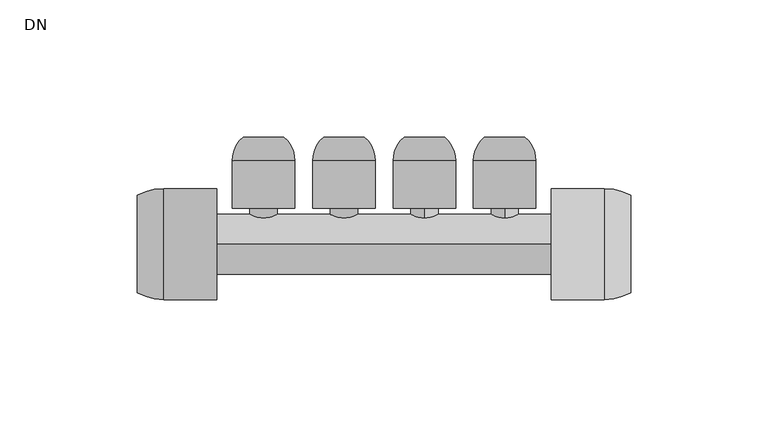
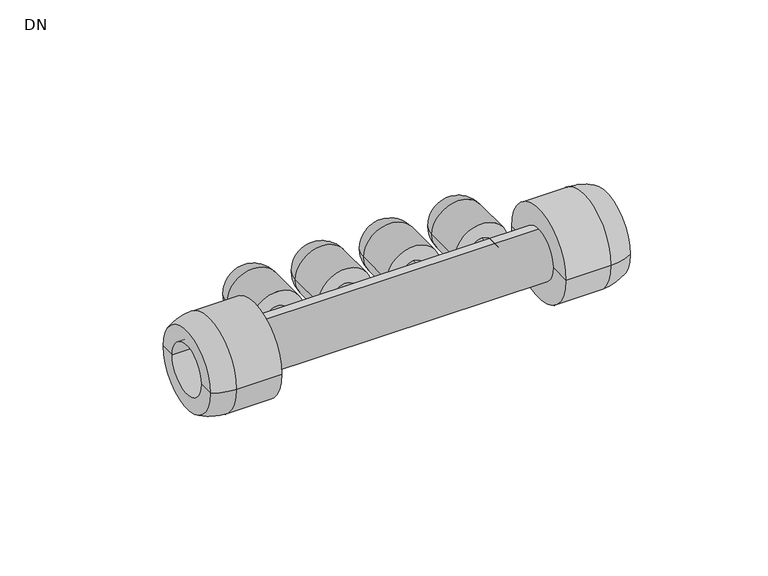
"""IFC4 building model written with IfcOpenShell, lengths in millimetres: pipe fitting geometry, Wavin_PipeFitting_Hep2oManifold : DN."""

import ifcopenshell
import ifcopenshell.guid

model = None  # the IFC model being written
_history = None  # IfcOwnerHistory: only IFC2X3 demands one
_inside = {}  # id of a spatial element -> (the spatial element, [elements in it])
_under = {}  # id of a project, library or spatial element -> (it, [spatial elements below it])
_declared = {}  # id of a project -> (the project, [libraries it declares])
_typed = {}  # id of a type object -> (the type object, [elements of that type])
_made_of = {}  # id of a material, layer set ... -> (it, [elements and type objects made of it])


def new_model(schema):
    """Start an empty IFC model of exactly this schema.

    Asked for "IFC4X3", IfcOpenShell would pick the latest addendum, in which some entities
    have other attributes; the version numbers below select the first issue.
    IFC2X3 requires an IfcOwnerHistory on every rooted entity: one is made here for all.
    """
    global model, _history
    if schema == "IFC4X3":
        model = ifcopenshell.file(schema_version=(4, 3, 0, 0))
    else:
        model = ifcopenshell.file(schema=schema)
    _inside.clear()
    _under.clear()
    _declared.clear()
    _typed.clear()
    _made_of.clear()
    _history = None
    if model.schema == "IFC2X3":
        org = make("IfcOrganization", Name="unknown")
        user = make(
            "IfcPersonAndOrganization",
            ThePerson=make("IfcPerson", FamilyName="unknown"),
            TheOrganization=org,
        )
        app = make(
            "IfcApplication",
            ApplicationDeveloper=org,
            Version="unknown",
            ApplicationFullName="unknown",
            ApplicationIdentifier="unknown",
        )
        _history = make(
            "IfcOwnerHistory",
            OwningUser=user,
            OwningApplication=app,
            ChangeAction="ADDED",
            CreationDate=0,
        )
    return model


def make(cls, **values):
    """One entity of the class cls with the attributes given. An attribute that is None is left unset."""
    return model.create_entity(
        cls, **{name: value for name, value in values.items() if value is not None}
    )


def rooted(cls, **values):
    """An entity with a GlobalId (a new one), such as an element, a storey or a relation."""
    return make(cls, GlobalId=ifcopenshell.guid.new(), OwnerHistory=_history, **values)


def si_unit(unit_type, name, prefix=None):
    """IfcSIUnit, for example si_unit("LENGTHUNIT", "METRE", prefix="MILLI")."""
    return make("IfcSIUnit", UnitType=unit_type, Prefix=prefix, Name=name)


def assignment(units):
    """IfcUnitAssignment: the units of a project."""
    return None if units is None else make("IfcUnitAssignment", Units=units)


def point(xyz):
    """IfcCartesianPoint."""
    return None if xyz is None else make("IfcCartesianPoint", Coordinates=xyz)


def direction(xyz):
    """IfcDirection."""
    return None if xyz is None else make("IfcDirection", DirectionRatios=xyz)


def frame(location, z_axis=None, x_axis=None):
    """IfcAxis2Placement3D, a coordinate frame: its origin and axes. An axis left out is left unset."""
    return make(
        "IfcAxis2Placement3D",
        Location=point(location),
        Axis=direction(z_axis),
        RefDirection=direction(x_axis),
    )


def frame_2d(location, x_axis=None):
    """IfcAxis2Placement2D, a coordinate frame in the plane: its origin and x axis."""
    return make(
        "IfcAxis2Placement2D", Location=point(location), RefDirection=direction(x_axis)
    )


def origin():
    """The frame at (0, 0, 0) with its axes left unset."""
    return frame((0.0, 0.0, 0.0))


def origin_2d():
    """The frame at (0, 0) in the plane with its x axis left unset."""
    return frame_2d((0.0, 0.0))


def place(relative_to, where):
    """IfcLocalPlacement: puts the frame where relative to a parent placement (None: the world)."""
    return make(
        "IfcLocalPlacement", PlacementRelTo=relative_to, RelativePlacement=where
    )


def context(
    kind, dimensions, precision=None, world=None, true_north=None, identifier=None
):
    """IfcGeometricRepresentationContext, for example the 3D "Model" context."""
    return make(
        "IfcGeometricRepresentationContext",
        ContextIdentifier=identifier,
        ContextType=kind,
        CoordinateSpaceDimension=dimensions,
        Precision=precision,
        WorldCoordinateSystem=world,
        TrueNorth=true_north,
    )


def project(units=None, contexts=None):
    """IfcProject with its units and contexts."""
    return rooted(
        "IfcProject",
        Name="project",
        RepresentationContexts=contexts,
        UnitsInContext=assignment(units),
    )


def spatial(cls, under=None, at=None, **own):
    """A site, building, storey or space (cls), placed at a placement, below another one or the project."""
    s = rooted(cls, ObjectPlacement=at, **own)
    if under is not None:
        _under.setdefault(under.id(), (under, []))[1].append(s)
    return s


def polyline(points):
    """IfcPolyline through the points."""
    return make("IfcPolyline", Points=[point(p) for p in points])


def circle_curve(where, radius):
    """IfcCircle in the frame where."""
    return make("IfcCircle", Position=where, Radius=radius)


def ellipse_curve(where, semi_axis1, semi_axis2):
    """IfcEllipse in the frame where."""
    return make(
        "IfcEllipse", Position=where, SemiAxis1=semi_axis1, SemiAxis2=semi_axis2
    )


def trimmed(basis, trim1, trim2, sense, master):
    """IfcTrimmedCurve: the piece of a basis curve between two trims."""
    return make(
        "IfcTrimmedCurve",
        BasisCurve=basis,
        Trim1=trim1,
        Trim2=trim2,
        SenseAgreement=sense,
        MasterRepresentation=master,
    )


def segment(curve, same_sense, transition):
    """IfcCompositeCurveSegment."""
    return make(
        "IfcCompositeCurveSegment",
        Transition=transition,
        SameSense=same_sense,
        ParentCurve=curve,
    )


def composite_curve(segments, self_intersect=None):
    """IfcCompositeCurve: segments joined end to end."""
    return make("IfcCompositeCurve", Segments=segments, SelfIntersect=self_intersect)


def outline(outer, holes=None, kind="AREA"):
    """IfcArbitraryClosedProfileDef: a profile drawn as a closed curve; with holes, ...WithVoids."""
    if holes is None:
        return make("IfcArbitraryClosedProfileDef", ProfileType=kind, OuterCurve=outer)
    return make(
        "IfcArbitraryProfileDefWithVoids",
        ProfileType=kind,
        OuterCurve=outer,
        InnerCurves=holes,
    )


def extrude(swept, where, along, depth):
    """IfcExtrudedAreaSolid: the profile swept, set in the frame where, extruded along a direction by depth."""
    return make(
        "IfcExtrudedAreaSolid",
        SweptArea=swept,
        Position=where,
        ExtrudedDirection=direction(along),
        Depth=depth,
    )


def shape(context_of_items, identifier, shape_type, items):
    """IfcShapeRepresentation: the items that make up one representation, for example the "Body"."""
    return make(
        "IfcShapeRepresentation",
        ContextOfItems=context_of_items,
        RepresentationIdentifier=identifier,
        RepresentationType=shape_type,
        Items=items,
    )


def source(mapping_origin, context_of_items, identifier, shape_type, items):
    """IfcRepresentationMap: a shape defined once, which mapped items show again and again."""
    return make(
        "IfcRepresentationMap",
        MappingOrigin=mapping_origin,
        MappedRepresentation=shape(context_of_items, identifier, shape_type, items),
    )


def transform(
    local_origin,
    x_axis=None,
    y_axis=None,
    z_axis=None,
    scale=None,
    scale2=None,
    scale3=None,
    uniform=True,
):
    """IfcCartesianTransformationOperator3D, or its non-uniform kind. x_axis, y_axis, z_axis: its Axis1, 2, 3."""
    if uniform:
        return make(
            "IfcCartesianTransformationOperator3D",
            Axis1=direction(x_axis),
            Axis2=direction(y_axis),
            LocalOrigin=point(local_origin),
            Scale=scale,
            Axis3=direction(z_axis),
        )
    return make(
        "IfcCartesianTransformationOperator3DnonUniform",
        Axis1=direction(x_axis),
        Axis2=direction(y_axis),
        LocalOrigin=point(local_origin),
        Scale=scale,
        Axis3=direction(z_axis),
        Scale2=scale2,
        Scale3=scale3,
    )


def mapped(mapping_source, mapping_target):
    """IfcMappedItem: shows the shape of a source again, moved by a transform."""
    return make(
        "IfcMappedItem", MappingSource=mapping_source, MappingTarget=mapping_target
    )


def made_of(thing, what):
    """Note that an element or type object is made of a material, layer set ...; save() writes the relation."""
    if what is not None:
        _made_of.setdefault(what.id(), (what, []))[1].append(thing)
    return thing


def element(
    cls,
    number,
    at=None,
    inside=None,
    cuts=None,
    type_object=None,
    material=None,
    context=None,
    identifier="Body",
    shape_type=None,
    held_by="IfcProductDefinitionShape",
    body=None,
    shapes=None,
    **own,
):
    """One element of the class cls, such as IfcWall. Its Tag is "e" and its number.

    at: its placement. inside: the storey or other place that contains it. cuts: it is an
    opening in that element (IfcRelVoidsElement). A single representation is given by context,
    identifier, shape_type and body (its items); several are given by shapes. held_by: the class
    of the entity that holds the representations. save() writes the other relations.
    """
    e = rooted(cls, Tag="e%d" % number, ObjectPlacement=at, **own)
    if body is not None:
        shapes = [shape(context, identifier, shape_type, body)]
    if shapes is not None:
        e.Representation = make(held_by, Representations=shapes)
    if inside is not None:
        _inside.setdefault(inside.id(), (inside, []))[1].append(e)
    if cuts is not None:
        rooted(
            "IfcRelVoidsElement", RelatingBuildingElement=cuts, RelatedOpeningElement=e
        )
    if type_object is not None:
        _typed.setdefault(type_object.id(), (type_object, []))[1].append(e)
    return made_of(e, material)


def aggregate(whole, parts):
    """IfcRelAggregates: a whole, such as a stair, and the parts it consists of."""
    return rooted("IfcRelAggregates", RelatingObject=whole, RelatedObjects=parts)


def save(model, path):
    """Write the relations noted so far, then the file.

    IfcRelAggregates (storeys below a building ...), IfcRelContainedInSpatialStructure (elements
    in a storey), IfcRelDefinesByType, IfcRelAssociatesMaterial and IfcRelDeclares: one each for
    every whole, place, type object, material and project.
    """
    for whole, parts in _under.values():
        aggregate(whole, parts)
    for where, things in _inside.values():
        rooted(
            "IfcRelContainedInSpatialStructure",
            RelatedElements=things,
            RelatingStructure=where,
        )
    for kind, things in _typed.values():
        rooted("IfcRelDefinesByType", RelatedObjects=things, RelatingType=kind)
    for what, things in _made_of.values():
        rooted("IfcRelAssociatesMaterial", RelatedObjects=things, RelatingMaterial=what)
    for by, libraries in _declared.values():
        rooted("IfcRelDeclares", RelatingContext=by, RelatedDefinitions=libraries)
    model.write(path)


def plane_surface(at):
    """IfcPlane: the flat surface through the origin of the frame at, square to its z axis."""
    return make("IfcPlane", Position=at)


def cylinder_surface(at, radius):
    """IfcCylindricalSurface: all points at the distance radius from the z axis of the frame at."""
    return make("IfcCylindricalSurface", Position=at, Radius=radius)


def revolved_surface(curve, axis_point, axis_direction):
    """IfcSurfaceOfRevolution: the curve turned about the line through axis_point along axis_direction."""
    return make(
        "IfcSurfaceOfRevolution",
        SweptCurve=make("IfcArbitraryOpenProfileDef", ProfileType="CURVE", Curve=curve),
        AxisPosition=make("IfcAxis1Placement", Location=point(axis_point), Axis=direction(axis_direction)),
    )


def advanced_brep(points, edges, surfaces, faces):
    """IfcAdvancedBrep: a solid bounded by faces that lie on surfaces and meet in shared edges.

    An edge is (start, end): straight between two places in points (the first is 0);
    or (start, end, curve); or (start, end, curve, False) where it runs against its curve.
    A face is (place in surfaces, loops), or (place, loops, False) where it looks against
    its surface's normal. A loop lists edges by number (the first is 1), with a minus sign
    where the edge is run from its end to its start. The first loop is the outer one.
    """
    corners = [point(p) for p in points]
    vertices = [make("IfcVertexPoint", VertexGeometry=c) for c in corners]
    made = []
    for start, end, *more in edges:
        made.append(
            make(
                "IfcEdgeCurve",
                EdgeStart=vertices[start],
                EdgeEnd=vertices[end],
                EdgeGeometry=more[0] if more else make("IfcPolyline", Points=[corners[start], corners[end]]),
                SameSense=more[1] if len(more) > 1 else True,
            )
        )
    hull = []
    for where, loops, *sense in faces:
        bounds = []
        for j, loop in enumerate(loops):
            ring = [make("IfcOrientedEdge", EdgeElement=made[abs(k) - 1], Orientation=k > 0) for k in loop]
            bounds.append(
                make(
                    "IfcFaceOuterBound" if j == 0 else "IfcFaceBound",
                    Bound=make("IfcEdgeLoop", EdgeList=ring),
                    Orientation=True,
                )
            )
        hull.append(make("IfcAdvancedFace", Bounds=bounds, FaceSurface=surfaces[where], SameSense=sense[0] if sense else True))
    return make("IfcAdvancedBrep", Outer=make("IfcClosedShell", CfsFaces=hull))


def dn_58c94de0(model_context):
    return source(origin(), model_context, "Body", "SolidModel", [
        advanced_brep(
        [(-22.0, 13.0, 0.0), (-12.0, 13.0, 0.0), (-12.0, 39.0, 0.0), (-22.0, 39.0, 0.0), (-28.4, 13.0, 0.0), (-5.6, 13.0, 0.0), (-28.4, 30.3333333, 0.0), (-5.6, 30.3333333, 0.0), (-24.4060036, 39.0, 0.0), (-9.5939964, 39.0, 0.0)],
        [
            (0, 1, circle_curve(frame((-17.0, 13.0, 0.0), z_axis=(0.0, -1.0, 0.0), x_axis=(1.0, 0.0, 0.0)), 5.0)),
            (1, 2),
            (2, 3, circle_curve(frame((-17.0, 39.0, 0.0), z_axis=(0.0, 1.0, 0.0), x_axis=(1.0, 0.0, 0.0)), 5.0)),
            (3, 0),
            (1, 0, circle_curve(frame((-17.0, 13.0, 0.0), z_axis=(0.0, -1.0, 0.0), x_axis=(1.0, 0.0, 0.0)), 5.0)),
            (3, 2, circle_curve(frame((-17.0, 39.0, 0.0), z_axis=(0.0, 1.0, 0.0), x_axis=(1.0, 0.0, 0.0)), 5.0)),
            (4, 5, circle_curve(frame((-17.0, 13.0, 0.0), z_axis=(0.0, -1.0, 0.0), x_axis=(1.0, 0.0, 0.0)), 11.4)),
            (5, 1),
            (0, 4),
            (5, 4, circle_curve(frame((-17.0, 13.0, 0.0), z_axis=(0.0, -1.0, 0.0), x_axis=(1.0, 0.0, 0.0)), 11.4)),
            (6, 7, circle_curve(frame((-17.0, 30.3333333, 0.0), z_axis=(0.0, -1.0, 0.0), x_axis=(1.0, 0.0, 0.0)), 11.4)),
            (7, 5),
            (4, 6),
            (7, 6, circle_curve(frame((-17.0, 30.3333333, 0.0), z_axis=(0.0, -1.0, 0.0), x_axis=(1.0, 0.0, 0.0)), 11.4)),
            (8, 9, circle_curve(frame((-17.0, 39.0, 0.0), z_axis=(0.0, -1.0, 0.0), x_axis=(1.0, 0.0, 0.0)), 7.4060036)),
            (9, 7, circle_curve(frame((-17.0, 30.3333333, 0.0), z_axis=(0.0, 0.0, -1.0), x_axis=(0.0, -1.0, 0.0)), 11.4)),
            (6, 8, circle_curve(frame((-17.0, 30.3333333, 0.0), z_axis=(0.0, 0.0, -1.0), x_axis=(0.0, -1.0, 0.0)), 11.4)),
            (9, 8, circle_curve(frame((-17.0, 39.0, 0.0), z_axis=(0.0, -1.0, 0.0), x_axis=(1.0, 0.0, 0.0)), 7.4060036)),
            (2, 9),
            (8, 3),
        ],
        [
            revolved_surface(polyline([(-12.0, 39.0, 0.0), (-12.0, 13.0, 0.0)]), (-17.0, -1987.0, 0.0), (0.0, 1.0, 0.0)),
            plane_surface(frame((-17.0, 13.0, 0.0), z_axis=(0.0, -1.0, 0.0), x_axis=(1.0, 0.0, 0.0))),
            cylinder_surface(frame((-17.0, -1987.0, 0.0), z_axis=(0.0, 1.0, 0.0), x_axis=(1.0, 0.0, 0.0)), 11.4),
            revolved_surface(trimmed(ellipse_curve(frame((-17.0, 30.3333333, 0.0), z_axis=(0.0, 0.0, 1.0), x_axis=(0.0, -1.0, 0.0)), 11.4, 11.4), [point((-5.6, 30.3333333, 0.0))], [point((-9.5939964, 39.0, 0.0))], True, "CARTESIAN"), (-17.0, -1987.0, 0.0), (0.0, 1.0, 0.0)),
            plane_surface(frame((-17.0, 39.0, 0.0), z_axis=(0.0, 1.0, 0.0), x_axis=(1.0, 0.0, 0.0))),
        ],
        [
            (0, [[1, 2, 3, 4]]),
            (0, [[5, -4, 6, -2]]),
            (1, [[7, 8, -1, 9]]),
            (1, [[10, -9, -5, -8]]),
            (2, [[11, 12, -7, 13]]),
            (2, [[14, -13, -10, -12]]),
            (3, [[15, 16, -11, 17]]),
            (3, [[18, -17, -14, -16]]),
            (4, [[-3, 19, -15, 20]]),
            (4, [[-6, -20, -18, -19]]),
        ],
    ),
        advanced_brep(
        [(-51.3, 13.0, 0.0), (-41.3, 13.0, 0.0), (-41.3, 39.0, 0.0), (-51.3, 39.0, 0.0), (-57.7, 13.0, 0.0), (-34.9, 13.0, 0.0), (-57.7, 30.3333333, 0.0), (-34.9, 30.3333333, 0.0), (-53.7060036, 39.0, 0.0), (-38.8939964, 39.0, 0.0)],
        [
            (0, 1, circle_curve(frame((-46.3, 13.0, 0.0), z_axis=(0.0, -1.0, 0.0), x_axis=(1.0, 0.0, 0.0)), 5.0)),
            (1, 2),
            (2, 3, circle_curve(frame((-46.3, 39.0, 0.0), z_axis=(0.0, 1.0, 0.0), x_axis=(1.0, 0.0, 0.0)), 5.0)),
            (3, 0),
            (1, 0, circle_curve(frame((-46.3, 13.0, 0.0), z_axis=(0.0, -1.0, 0.0), x_axis=(1.0, 0.0, 0.0)), 5.0)),
            (3, 2, circle_curve(frame((-46.3, 39.0, 0.0), z_axis=(0.0, 1.0, 0.0), x_axis=(1.0, 0.0, 0.0)), 5.0)),
            (4, 5, circle_curve(frame((-46.3, 13.0, 0.0), z_axis=(0.0, -1.0, 0.0), x_axis=(1.0, 0.0, 0.0)), 11.4)),
            (5, 1),
            (0, 4),
            (5, 4, circle_curve(frame((-46.3, 13.0, 0.0), z_axis=(0.0, -1.0, 0.0), x_axis=(1.0, 0.0, 0.0)), 11.4)),
            (6, 7, circle_curve(frame((-46.3, 30.3333333, 0.0), z_axis=(0.0, -1.0, 0.0), x_axis=(1.0, 0.0, 0.0)), 11.4)),
            (7, 5),
            (4, 6),
            (7, 6, circle_curve(frame((-46.3, 30.3333333, 0.0), z_axis=(0.0, -1.0, 0.0), x_axis=(1.0, 0.0, 0.0)), 11.4)),
            (8, 9, circle_curve(frame((-46.3, 39.0, 0.0), z_axis=(0.0, -1.0, 0.0), x_axis=(1.0, 0.0, 0.0)), 7.4060036)),
            (9, 7, circle_curve(frame((-46.3, 30.3333333, 0.0), z_axis=(0.0, 0.0, -1.0), x_axis=(0.0, -1.0, 0.0)), 11.4)),
            (6, 8, circle_curve(frame((-46.3, 30.3333333, 0.0), z_axis=(0.0, 0.0, -1.0), x_axis=(0.0, -1.0, 0.0)), 11.4)),
            (9, 8, circle_curve(frame((-46.3, 39.0, 0.0), z_axis=(0.0, -1.0, 0.0), x_axis=(1.0, 0.0, 0.0)), 7.4060036)),
            (2, 9),
            (8, 3),
        ],
        [
            revolved_surface(polyline([(-41.3, 39.0, 0.0), (-41.3, 13.0, 0.0)]), (-46.3, -1987.0, 0.0), (0.0, 1.0, 0.0)),
            plane_surface(frame((-46.3, 13.0, 0.0), z_axis=(0.0, -1.0, 0.0), x_axis=(1.0, 0.0, 0.0))),
            cylinder_surface(frame((-46.3, -1987.0, 0.0), z_axis=(0.0, 1.0, 0.0), x_axis=(1.0, 0.0, 0.0)), 11.4),
            revolved_surface(trimmed(ellipse_curve(frame((-46.3, 30.3333333, 0.0), z_axis=(0.0, 0.0, 1.0), x_axis=(0.0, -1.0, 0.0)), 11.4, 11.4), [point((-34.9, 30.3333333, 0.0))], [point((-38.8939964, 39.0, 0.0))], True, "CARTESIAN"), (-46.3, -1987.0, 0.0), (0.0, 1.0, 0.0)),
            plane_surface(frame((-46.3, 39.0, 0.0), z_axis=(0.0, 1.0, 0.0), x_axis=(1.0, 0.0, 0.0))),
        ],
        [
            (0, [[1, 2, 3, 4]]),
            (0, [[5, -4, 6, -2]]),
            (1, [[7, 8, -1, 9]]),
            (1, [[10, -9, -5, -8]]),
            (2, [[11, 12, -7, 13]]),
            (2, [[14, -13, -10, -12]]),
            (3, [[15, 16, -11, 17]]),
            (3, [[18, -17, -14, -16]]),
            (4, [[-3, 19, -15, 20]]),
            (4, [[-6, -20, -18, -19]]),
        ],
    ),
        advanced_brep(
        [(-80.6, 13.0, 0.0), (-70.6, 13.0, 0.0), (-70.6, 39.0, 0.0), (-80.6, 39.0, 0.0), (-87.0, 13.0, 0.0), (-64.2, 13.0, 0.0), (-87.0, 30.3333333, 0.0), (-64.2, 30.3333333, 0.0), (-83.0060036, 39.0, 0.0), (-68.1939964, 39.0, 0.0)],
        [
            (0, 1, circle_curve(frame((-75.6, 13.0, 0.0), z_axis=(0.0, -1.0, 0.0), x_axis=(1.0, 0.0, 0.0)), 5.0)),
            (1, 2),
            (2, 3, circle_curve(frame((-75.6, 39.0, 0.0), z_axis=(0.0, 1.0, 0.0), x_axis=(1.0, 0.0, 0.0)), 5.0)),
            (3, 0),
            (1, 0, circle_curve(frame((-75.6, 13.0, 0.0), z_axis=(0.0, -1.0, 0.0), x_axis=(1.0, 0.0, 0.0)), 5.0)),
            (3, 2, circle_curve(frame((-75.6, 39.0, 0.0), z_axis=(0.0, 1.0, 0.0), x_axis=(1.0, 0.0, 0.0)), 5.0)),
            (4, 5, circle_curve(frame((-75.6, 13.0, 0.0), z_axis=(0.0, -1.0, 0.0), x_axis=(1.0, 0.0, 0.0)), 11.4)),
            (5, 1),
            (0, 4),
            (5, 4, circle_curve(frame((-75.6, 13.0, 0.0), z_axis=(0.0, -1.0, 0.0), x_axis=(1.0, 0.0, 0.0)), 11.4)),
            (6, 7, circle_curve(frame((-75.6, 30.3333333, 0.0), z_axis=(0.0, -1.0, 0.0), x_axis=(1.0, 0.0, 0.0)), 11.4)),
            (7, 5),
            (4, 6),
            (7, 6, circle_curve(frame((-75.6, 30.3333333, 0.0), z_axis=(0.0, -1.0, 0.0), x_axis=(1.0, 0.0, 0.0)), 11.4)),
            (8, 9, circle_curve(frame((-75.6, 39.0, 0.0), z_axis=(0.0, -1.0, 0.0), x_axis=(1.0, 0.0, 0.0)), 7.4060036)),
            (9, 7, circle_curve(frame((-75.6, 30.3333333, 0.0), z_axis=(0.0, 0.0, -1.0), x_axis=(0.0, -1.0, 0.0)), 11.4)),
            (6, 8, circle_curve(frame((-75.6, 30.3333333, 0.0), z_axis=(0.0, 0.0, -1.0), x_axis=(0.0, -1.0, 0.0)), 11.4)),
            (9, 8, circle_curve(frame((-75.6, 39.0, 0.0), z_axis=(0.0, -1.0, 0.0), x_axis=(1.0, 0.0, 0.0)), 7.4060036)),
            (2, 9),
            (8, 3),
        ],
        [
            revolved_surface(polyline([(-70.6, 39.0, 0.0), (-70.6, 13.0, 0.0)]), (-75.6, -1987.0, 0.0), (0.0, 1.0, 0.0)),
            plane_surface(frame((-75.6, 13.0, 0.0), z_axis=(0.0, -1.0, 0.0), x_axis=(1.0, 0.0, 0.0))),
            cylinder_surface(frame((-75.6, -1987.0, 0.0), z_axis=(0.0, 1.0, 0.0), x_axis=(1.0, 0.0, 0.0)), 11.4),
            revolved_surface(trimmed(ellipse_curve(frame((-75.6, 30.3333333, 0.0), z_axis=(0.0, 0.0, 1.0), x_axis=(0.0, -1.0, 0.0)), 11.4, 11.4), [point((-64.2, 30.3333333, 0.0))], [point((-68.1939964, 39.0, 0.0))], True, "CARTESIAN"), (-75.6, -1987.0, 0.0), (0.0, 1.0, 0.0)),
            plane_surface(frame((-75.6, 39.0, 0.0), z_axis=(0.0, 1.0, 0.0), x_axis=(1.0, 0.0, 0.0))),
        ],
        [
            (0, [[1, 2, 3, 4]]),
            (0, [[5, -4, 6, -2]]),
            (1, [[7, 8, -1, 9]]),
            (1, [[10, -9, -5, -8]]),
            (2, [[11, 12, -7, 13]]),
            (2, [[14, -13, -10, -12]]),
            (3, [[15, 16, -11, 17]]),
            (3, [[18, -17, -14, -16]]),
            (4, [[-3, 19, -15, 20]]),
            (4, [[-6, -20, -18, -19]]),
        ],
    ),
        advanced_brep(
        [(-109.9, 13.0, 0.0), (-99.9, 13.0, 0.0), (-99.9, 39.0, 0.0), (-109.9, 39.0, 0.0), (-116.3, 13.0, 0.0), (-93.5, 13.0, 0.0), (-116.3, 30.3333333, 0.0), (-93.5, 30.3333333, 0.0), (-112.3060036, 39.0, 0.0), (-97.4939964, 39.0, 0.0)],
        [
            (0, 1, circle_curve(frame((-104.9, 13.0, 0.0), z_axis=(0.0, -1.0, 0.0), x_axis=(1.0, 0.0, 0.0)), 5.0)),
            (1, 2),
            (2, 3, circle_curve(frame((-104.9, 39.0, 0.0), z_axis=(0.0, 1.0, 0.0), x_axis=(1.0, 0.0, 0.0)), 5.0)),
            (3, 0),
            (1, 0, circle_curve(frame((-104.9, 13.0, 0.0), z_axis=(0.0, -1.0, 0.0), x_axis=(1.0, 0.0, 0.0)), 5.0)),
            (3, 2, circle_curve(frame((-104.9, 39.0, 0.0), z_axis=(0.0, 1.0, 0.0), x_axis=(1.0, 0.0, 0.0)), 5.0)),
            (4, 5, circle_curve(frame((-104.9, 13.0, 0.0), z_axis=(0.0, -1.0, 0.0), x_axis=(1.0, 0.0, 0.0)), 11.4)),
            (5, 1),
            (0, 4),
            (5, 4, circle_curve(frame((-104.9, 13.0, 0.0), z_axis=(0.0, -1.0, 0.0), x_axis=(1.0, 0.0, 0.0)), 11.4)),
            (6, 7, circle_curve(frame((-104.9, 30.3333333, 0.0), z_axis=(0.0, -1.0, 0.0), x_axis=(1.0, 0.0, 0.0)), 11.4)),
            (7, 5),
            (4, 6),
            (7, 6, circle_curve(frame((-104.9, 30.3333333, 0.0), z_axis=(0.0, -1.0, 0.0), x_axis=(1.0, 0.0, 0.0)), 11.4)),
            (8, 9, circle_curve(frame((-104.9, 39.0, 0.0), z_axis=(0.0, -1.0, 0.0), x_axis=(1.0, 0.0, 0.0)), 7.4060036)),
            (9, 7, circle_curve(frame((-104.9, 30.3333333, 0.0), z_axis=(0.0, 0.0, -1.0), x_axis=(0.0, -1.0, 0.0)), 11.4)),
            (6, 8, circle_curve(frame((-104.9, 30.3333333, 0.0), z_axis=(0.0, 0.0, -1.0), x_axis=(0.0, -1.0, 0.0)), 11.4)),
            (9, 8, circle_curve(frame((-104.9, 39.0, 0.0), z_axis=(0.0, -1.0, 0.0), x_axis=(1.0, 0.0, 0.0)), 7.4060036)),
            (2, 9),
            (8, 3),
        ],
        [
            revolved_surface(polyline([(-99.9, 39.0, 0.0), (-99.9, 13.0, 0.0)]), (-104.9, -1987.0, 0.0), (0.0, 1.0, 0.0)),
            plane_surface(frame((-104.9, 13.0, 0.0), z_axis=(0.0, -1.0, 0.0), x_axis=(1.0, 0.0, 0.0))),
            cylinder_surface(frame((-104.9, -1987.0, 0.0), z_axis=(0.0, 1.0, 0.0), x_axis=(1.0, 0.0, 0.0)), 11.4),
            revolved_surface(trimmed(ellipse_curve(frame((-104.9, 30.3333333, 0.0), z_axis=(0.0, 0.0, 1.0), x_axis=(0.0, -1.0, 0.0)), 11.4, 11.4), [point((-93.5, 30.3333333, 0.0))], [point((-97.4939964, 39.0, 0.0))], True, "CARTESIAN"), (-104.9, -1987.0, 0.0), (0.0, 1.0, 0.0)),
            plane_surface(frame((-104.9, 39.0, 0.0), z_axis=(0.0, 1.0, 0.0), x_axis=(1.0, 0.0, 0.0))),
        ],
        [
            (0, [[1, 2, 3, 4]]),
            (0, [[5, -4, 6, -2]]),
            (1, [[7, 8, -1, 9]]),
            (1, [[10, -9, -5, -8]]),
            (2, [[11, 12, -7, 13]]),
            (2, [[14, -13, -10, -12]]),
            (3, [[15, 16, -11, 17]]),
            (3, [[18, -17, -14, -16]]),
            (4, [[-3, 19, -15, 20]]),
            (4, [[-6, -20, -18, -19]]),
        ],
    ),
        advanced_brep(
        [(0.0, 11.0, 0.0), (0.0, -11.0, 0.0), (29.0, -11.0, 0.0), (29.0, 11.0, 0.0), (0.0, 20.2, 0.0), (0.0, -20.2, 0.0), (19.3333333, 20.2, 0.0), (19.3333333, -20.2, 0.0), (29.0, 17.7368418, 0.0), (29.0, -17.7368418, 0.0)],
        [
            (0, 1, circle_curve(frame((0.0, 0.0, 0.0), z_axis=(-1.0, 0.0, 0.0), x_axis=(0.0, -1.0, 0.0)), 11.0)),
            (1, 2),
            (2, 3, circle_curve(frame((29.0, 0.0, 0.0), z_axis=(1.0, 0.0, 0.0), x_axis=(0.0, -1.0, 0.0)), 11.0)),
            (3, 0),
            (1, 0, circle_curve(frame((0.0, 0.0, 0.0), z_axis=(-1.0, 0.0, 0.0), x_axis=(0.0, -1.0, 0.0)), 11.0)),
            (3, 2, circle_curve(frame((29.0, 0.0, 0.0), z_axis=(1.0, 0.0, 0.0), x_axis=(0.0, -1.0, 0.0)), 11.0)),
            (4, 5, circle_curve(frame((0.0, 0.0, 0.0), z_axis=(-1.0, 0.0, 0.0), x_axis=(0.0, -1.0, 0.0)), 20.2)),
            (5, 1),
            (0, 4),
            (5, 4, circle_curve(frame((0.0, 0.0, 0.0), z_axis=(-1.0, 0.0, 0.0), x_axis=(0.0, -1.0, 0.0)), 20.2)),
            (6, 7, circle_curve(frame((19.3333333, 0.0, 0.0), z_axis=(-1.0, 0.0, 0.0), x_axis=(0.0, -1.0, 0.0)), 20.2)),
            (7, 5),
            (4, 6),
            (7, 6, circle_curve(frame((19.3333333, 0.0, 0.0), z_axis=(-1.0, 0.0, 0.0), x_axis=(0.0, -1.0, 0.0)), 20.2)),
            (8, 9, circle_curve(frame((29.0, 0.0, 0.0), z_axis=(-1.0, 0.0, 0.0), x_axis=(0.0, -1.0, 0.0)), 17.7368418)),
            (9, 7, circle_curve(frame((19.3333333, 0.0, 0.0), z_axis=(0.0, 0.0, -1.0), x_axis=(-1.0, 0.0, 0.0)), 20.2)),
            (6, 8, circle_curve(frame((19.3333333, 0.0, 0.0), z_axis=(0.0, 0.0, -1.0), x_axis=(-1.0, 0.0, 0.0)), 20.2)),
            (9, 8, circle_curve(frame((29.0, 0.0, 0.0), z_axis=(-1.0, 0.0, 0.0), x_axis=(0.0, -1.0, 0.0)), 17.7368418)),
            (2, 9),
            (8, 3),
        ],
        [
            revolved_surface(polyline([(29.0, -11.0, 0.0), (0.0, -11.0, 0.0)]), (-2000.0, 0.0, 0.0), (1.0, 0.0, 0.0)),
            plane_surface(frame((0.0, 0.0, 0.0), z_axis=(-1.0, 0.0, 0.0), x_axis=(0.0, -1.0, 0.0))),
            cylinder_surface(frame((-2000.0, 0.0, 0.0), z_axis=(1.0, 0.0, 0.0), x_axis=(0.0, -1.0, 0.0)), 20.2),
            revolved_surface(trimmed(ellipse_curve(frame((19.3333333, 0.0, 0.0), z_axis=(0.0, 0.0, 1.0), x_axis=(-1.0, 0.0, 0.0)), 20.2, 20.2), [point((19.3333333, -20.2, 0.0))], [point((29.0, -17.7368418, 0.0))], True, "CARTESIAN"), (-2000.0, 0.0, 0.0), (1.0, 0.0, 0.0)),
            plane_surface(frame((29.0, 0.0, 0.0), z_axis=(1.0, 0.0, 0.0), x_axis=(0.0, -1.0, 0.0))),
        ],
        [
            (0, [[1, 2, 3, 4]]),
            (0, [[5, -4, 6, -2]]),
            (1, [[7, 8, -1, 9]]),
            (1, [[10, -9, -5, -8]]),
            (2, [[11, 12, -7, 13]]),
            (2, [[14, -13, -10, -12]]),
            (3, [[15, 16, -11, 17]]),
            (3, [[18, -17, -14, -16]]),
            (4, [[-3, 19, -15, 20]]),
            (4, [[-6, -20, -18, -19]]),
        ],
    ),
        advanced_brep(
        [(-122.0, -11.0, 0.0), (-122.0, 11.0, 0.0), (-151.0, 11.0, 0.0), (-151.0, -11.0, 0.0), (-122.0, -20.2, 0.0), (-122.0, 20.2, 0.0), (-141.3333333, -20.2, 0.0), (-141.3333333, 20.2, 0.0), (-151.0, -17.7368418, 0.0), (-151.0, 17.7368418, 0.0)],
        [
            (0, 1, circle_curve(frame((-122.0, 0.0, 0.0), z_axis=(1.0, 0.0, 0.0), x_axis=(0.0, 1.0, 0.0)), 11.0)),
            (1, 2),
            (2, 3, circle_curve(frame((-151.0, 0.0, 0.0), z_axis=(-1.0, 0.0, 0.0), x_axis=(0.0, 1.0, 0.0)), 11.0)),
            (3, 0),
            (1, 0, circle_curve(frame((-122.0, 0.0, 0.0), z_axis=(1.0, 0.0, 0.0), x_axis=(0.0, 1.0, 0.0)), 11.0)),
            (3, 2, circle_curve(frame((-151.0, 0.0, 0.0), z_axis=(-1.0, 0.0, 0.0), x_axis=(0.0, 1.0, 0.0)), 11.0)),
            (4, 5, circle_curve(frame((-122.0, 0.0, 0.0), z_axis=(1.0, 0.0, 0.0), x_axis=(0.0, 1.0, 0.0)), 20.2)),
            (5, 1),
            (0, 4),
            (5, 4, circle_curve(frame((-122.0, 0.0, 0.0), z_axis=(1.0, 0.0, 0.0), x_axis=(0.0, 1.0, 0.0)), 20.2)),
            (6, 7, circle_curve(frame((-141.3333333, 0.0, 0.0), z_axis=(1.0, 0.0, 0.0), x_axis=(0.0, 1.0, 0.0)), 20.2)),
            (7, 5),
            (4, 6),
            (7, 6, circle_curve(frame((-141.3333333, 0.0, 0.0), z_axis=(1.0, 0.0, 0.0), x_axis=(0.0, 1.0, 0.0)), 20.2)),
            (8, 9, circle_curve(frame((-151.0, 0.0, 0.0), z_axis=(1.0, 0.0, 0.0), x_axis=(0.0, 1.0, 0.0)), 17.7368418)),
            (9, 7, circle_curve(frame((-141.3333333, 0.0, 0.0), z_axis=(0.0, 0.0, -1.0), x_axis=(1.0, 0.0, 0.0)), 20.2)),
            (6, 8, circle_curve(frame((-141.3333333, 0.0, 0.0), z_axis=(0.0, 0.0, -1.0), x_axis=(1.0, 0.0, 0.0)), 20.2)),
            (9, 8, circle_curve(frame((-151.0, 0.0, 0.0), z_axis=(1.0, 0.0, 0.0), x_axis=(0.0, 1.0, 0.0)), 17.7368418)),
            (2, 9),
            (8, 3),
        ],
        [
            revolved_surface(polyline([(-151.0, 11.0, 0.0), (-122.0, 11.0, 0.0)]), (1878.0, 0.0, 0.0), (-1.0, 0.0, 0.0)),
            plane_surface(frame((-122.0, 0.0, 0.0), z_axis=(1.0, 0.0, 0.0), x_axis=(0.0, 1.0, 0.0))),
            cylinder_surface(frame((1878.0, 0.0, 0.0), z_axis=(-1.0, 0.0, 0.0), x_axis=(0.0, 1.0, 0.0)), 20.2),
            revolved_surface(trimmed(ellipse_curve(frame((-141.3333333, 0.0, 0.0), z_axis=(0.0, 0.0, 1.0), x_axis=(1.0, 0.0, 0.0)), 20.2, 20.2), [point((-141.3333333, 20.2, 0.0))], [point((-151.0, 17.7368418, 0.0))], True, "CARTESIAN"), (1878.0, 0.0, 0.0), (-1.0, 0.0, 0.0)),
            plane_surface(frame((-151.0, 0.0, 0.0), z_axis=(-1.0, 0.0, 0.0), x_axis=(0.0, 1.0, 0.0))),
        ],
        [
            (0, [[1, 2, 3, 4]]),
            (0, [[5, -4, 6, -2]]),
            (1, [[7, 8, -1, 9]]),
            (1, [[10, -9, -5, -8]]),
            (2, [[11, 12, -7, 13]]),
            (2, [[14, -13, -10, -12]]),
            (3, [[15, 16, -11, 17]]),
            (3, [[18, -17, -14, -16]]),
            (4, [[-3, 19, -15, 20]]),
            (4, [[-6, -20, -18, -19]]),
        ],
    ),
        extrude(outline(composite_curve([segment(trimmed(circle_curve(frame_2d((0.0, -104.9)), 5.0), [point((0.0, -109.9))], [point((0.0, -99.9))], False, "CARTESIAN"), True, "CONTINUOUS"), segment(trimmed(circle_curve(frame_2d((0.0, -104.9)), 5.0), [point((0.0, -99.9))], [point((0.0, -109.9))], False, "CARTESIAN"), True, "CONTINUOUS")], self_intersect=False)), frame((0.0, 0.0, 0.0), z_axis=(0.0, 1.0, 0.0), x_axis=(0.0, 0.0, 1.0)), (0.0, 0.0, 1.0), 13.0),
        extrude(outline(composite_curve([segment(trimmed(circle_curve(frame_2d((0.0, -75.6)), 5.0), [point((0.0, -80.6))], [point((0.0, -70.6))], False, "CARTESIAN"), True, "CONTINUOUS"), segment(trimmed(circle_curve(frame_2d((0.0, -75.6)), 5.0), [point((0.0, -70.6))], [point((0.0, -80.6))], False, "CARTESIAN"), True, "CONTINUOUS")], self_intersect=False)), frame((0.0, 0.0, 0.0), z_axis=(0.0, 1.0, 0.0), x_axis=(0.0, 0.0, 1.0)), (0.0, 0.0, 1.0), 13.0),
        extrude(outline(composite_curve([segment(trimmed(circle_curve(frame_2d((0.0, -46.3)), 5.0), [point((-5.0, -46.3))], [point((5.0, -46.3))], False, "CARTESIAN"), True, "CONTINUOUS"), segment(trimmed(circle_curve(frame_2d((0.0, -46.3)), 5.0), [point((5.0, -46.3))], [point((-5.0, -46.3))], False, "CARTESIAN"), True, "CONTINUOUS")], self_intersect=False)), frame((0.0, 0.0, 0.0), z_axis=(0.0, 1.0, 0.0), x_axis=(0.0, 0.0, 1.0)), (0.0, 0.0, 1.0), 13.0),
        extrude(outline(composite_curve([segment(trimmed(circle_curve(frame_2d((0.0, -17.0)), 5.0), [point((-5.0, -17.0))], [point((5.0, -17.0))], False, "CARTESIAN"), True, "CONTINUOUS"), segment(trimmed(circle_curve(frame_2d((0.0, -17.0)), 5.0), [point((5.0, -17.0))], [point((-5.0, -17.0))], False, "CARTESIAN"), True, "CONTINUOUS")], self_intersect=False)), frame((0.0, 0.0, 0.0), z_axis=(0.0, 1.0, 0.0), x_axis=(0.0, 0.0, 1.0)), (0.0, 0.0, 1.0), 13.0),
        extrude(outline(composite_curve([segment(trimmed(circle_curve(origin_2d(), 11.0), [point((0.0, -11.0))], [point((0.0, 11.0))], False, "CARTESIAN"), True, "CONTINUOUS"), segment(trimmed(circle_curve(origin_2d(), 11.0), [point((0.0, 11.0))], [point((0.0, -11.0))], False, "CARTESIAN"), True, "CONTINUOUS")], self_intersect=False)), frame((-122.0, 0.0, 0.0), z_axis=(1.0, 0.0, 0.0), x_axis=(0.0, 1.0, 0.0)), (0.0, 0.0, 1.0), 122.0),
    ])


if __name__ == "__main__":
    model = new_model("IFC4")
    model_context = context("Model", 3, world=origin())
    ifc_project = project(units=[si_unit("LENGTHUNIT", "METRE", prefix="MILLI")], contexts=[model_context])
    site = spatial("IfcSite", under=ifc_project)
    building = spatial("IfcBuilding", under=site)
    placement = place(None, origin())
    dn_shape = dn_58c94de0(model_context)
    element("IfcPipeFitting", 1, ObjectType="Wavin_PipeFitting_Hep2oManifold : DN", at=placement, inside=building, context=model_context, shape_type="MappedRepresentation", body=[
        mapped(dn_shape, transform((0.0, 0.0, 0.0), x_axis=(1.0, 0.0, 0.0), y_axis=(0.0, 1.0, 0.0), z_axis=(0.0, 0.0, 1.0))),
    ])
    save(model, "model.ifc")
